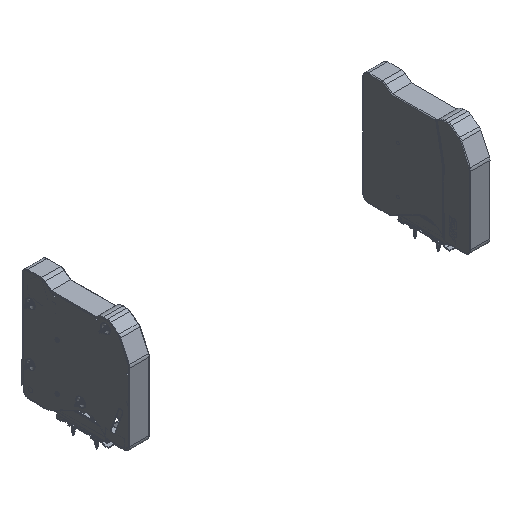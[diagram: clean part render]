
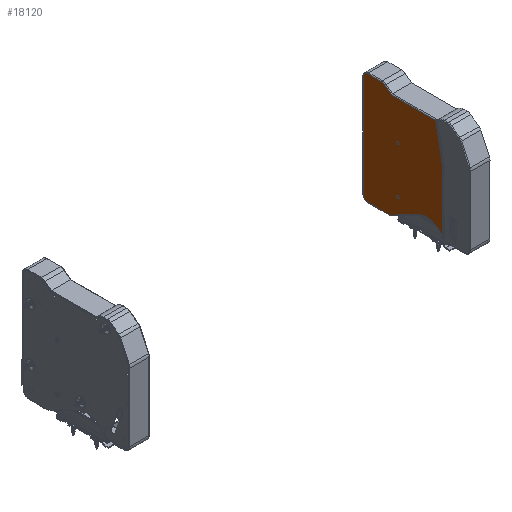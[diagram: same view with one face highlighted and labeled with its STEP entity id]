
A CAD part, isometric view. The second image highlights one B-rep face of the part: STEP entity #18120.
In plain terms, the highlighted planar face has unit normal (-1, 0, 0).
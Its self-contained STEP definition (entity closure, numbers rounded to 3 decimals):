
#1267=PLANE('',#19950);
#2826=LINE('',#34453,#4457);
#2828=LINE('',#34484,#4459);
#2830=LINE('',#34496,#4461);
#2832=LINE('',#34508,#4463);
#2834=LINE('',#34520,#4465);
#2835=LINE('',#34528,#4466);
#2857=LINE('',#34580,#4488);
#2871=LINE('',#34665,#4502);
#4457=VECTOR('',#24947,10.);
#4459=VECTOR('',#24971,10.);
#4461=VECTOR('',#24985,10.);
#4463=VECTOR('',#24999,10.);
#4465=VECTOR('',#25013,10.);
#4466=VECTOR('',#25024,10.);
#4488=VECTOR('',#25082,10.);
#4502=VECTOR('',#25162,10.);
#5789=FACE_OUTER_BOUND('',#7019,.T.);
#7019=EDGE_LOOP('',(#16878,#16879,#16880,#16881,#16882,#16883,#16884,#16885,
#16886,#16887,#16888,#16889,#16890,#16891));
#7714=CIRCLE('',#19865,30.413);
#7719=CIRCLE('',#19871,19.705);
#7723=CIRCLE('',#19877,11.);
#7727=CIRCLE('',#19883,7.);
#7731=CIRCLE('',#19889,7.);
#7735=CIRCLE('',#19895,7.);
#9387=VERTEX_POINT('',#34450);
#9388=VERTEX_POINT('',#34452);
#9389=VERTEX_POINT('',#34456);
#9391=VERTEX_POINT('',#34468);
#9394=VERTEX_POINT('',#34475);
#9396=VERTEX_POINT('',#34481);
#9398=VERTEX_POINT('',#34487);
#9400=VERTEX_POINT('',#34493);
#9402=VERTEX_POINT('',#34499);
#9404=VERTEX_POINT('',#34505);
#9406=VERTEX_POINT('',#34511);
#9408=VERTEX_POINT('',#34517);
#9410=VERTEX_POINT('',#34523);
#9422=VERTEX_POINT('',#34578);
#11844=EDGE_CURVE('',#9388,#9387,#2826,.T.);
#11847=EDGE_CURVE('',#9391,#9389,#7714,.T.);
#11852=EDGE_CURVE('',#9394,#9391,#7719,.T.);
#11855=EDGE_CURVE('',#9396,#9394,#2828,.T.);
#11858=EDGE_CURVE('',#9398,#9396,#7723,.T.);
#11861=EDGE_CURVE('',#9400,#9398,#2830,.T.);
#11864=EDGE_CURVE('',#9402,#9400,#7727,.T.);
#11867=EDGE_CURVE('',#9404,#9402,#2832,.T.);
#11870=EDGE_CURVE('',#9406,#9404,#7731,.T.);
#11873=EDGE_CURVE('',#9408,#9406,#2834,.T.);
#11876=EDGE_CURVE('',#9410,#9408,#7735,.T.);
#11877=EDGE_CURVE('',#9387,#9410,#2835,.T.);
#11904=EDGE_CURVE('',#9422,#9389,#2857,.T.);
#11939=EDGE_CURVE('',#9388,#9422,#2871,.T.);
#16878=ORIENTED_EDGE('',*,*,#11844,.T.);
#16879=ORIENTED_EDGE('',*,*,#11877,.T.);
#16880=ORIENTED_EDGE('',*,*,#11876,.T.);
#16881=ORIENTED_EDGE('',*,*,#11873,.T.);
#16882=ORIENTED_EDGE('',*,*,#11870,.T.);
#16883=ORIENTED_EDGE('',*,*,#11867,.T.);
#16884=ORIENTED_EDGE('',*,*,#11864,.T.);
#16885=ORIENTED_EDGE('',*,*,#11861,.T.);
#16886=ORIENTED_EDGE('',*,*,#11858,.T.);
#16887=ORIENTED_EDGE('',*,*,#11855,.T.);
#16888=ORIENTED_EDGE('',*,*,#11852,.T.);
#16889=ORIENTED_EDGE('',*,*,#11847,.T.);
#16890=ORIENTED_EDGE('',*,*,#11904,.F.);
#16891=ORIENTED_EDGE('',*,*,#11939,.F.);
#18120=ADVANCED_FACE('',(#5789),#1267,.F.);
#19865=AXIS2_PLACEMENT_3D('',#34469,#24952,#24953);
#19871=AXIS2_PLACEMENT_3D('',#34478,#24964,#24965);
#19877=AXIS2_PLACEMENT_3D('',#34490,#24978,#24979);
#19883=AXIS2_PLACEMENT_3D('',#34502,#24992,#24993);
#19889=AXIS2_PLACEMENT_3D('',#34514,#25006,#25007);
#19895=AXIS2_PLACEMENT_3D('',#34526,#25020,#25021);
#19950=AXIS2_PLACEMENT_3D('',#34668,#25167,#25168);
#24947=DIRECTION('',(0.,1.,0.));
#24952=DIRECTION('center_axis',(1.,0.,0.));
#24953=DIRECTION('ref_axis',(0.,-0.465,0.885));
#24964=DIRECTION('center_axis',(1.,0.,0.));
#24965=DIRECTION('ref_axis',(0.,0.208,0.978));
#24971=DIRECTION('',(0.,-0.888,0.461));
#24978=DIRECTION('center_axis',(-1.,0.,0.));
#24979=DIRECTION('ref_axis',(0.,-0.237,-0.971));
#24985=DIRECTION('',(0.,-1.,0.));
#24992=DIRECTION('center_axis',(-1.,0.,0.));
#24993=DIRECTION('ref_axis',(0.,0.707,-0.707));
#24999=DIRECTION('',(0.,0.,-1.));
#25006=DIRECTION('center_axis',(-1.,0.,0.));
#25007=DIRECTION('ref_axis',(0.,0.707,0.707));
#25013=DIRECTION('',(0.,1.,0.));
#25020=DIRECTION('center_axis',(-1.,0.,0.));
#25021=DIRECTION('ref_axis',(0.,-0.332,0.943));
#25024=DIRECTION('',(0.,0.78,0.626));
#25082=DIRECTION('',(0.,0.,-1.));
#25162=DIRECTION('',(0.,-0.183,-0.983));
#25167=DIRECTION('center_axis',(1.,0.,0.));
#25168=DIRECTION('ref_axis',(0.,0.,-1.));
#34450=CARTESIAN_POINT('',(-14.5,-85.166,-100.886));
#34452=CARTESIAN_POINT('',(-14.5,-145.76,-100.886));
#34453=CARTESIAN_POINT('',(-14.5,-131.294,-100.886));
#34456=CARTESIAN_POINT('',(-14.5,-154.571,-232.056));
#34468=CARTESIAN_POINT('',(-14.5,-133.179,-221.385));
#34469=CARTESIAN_POINT('Origin',(-14.5,-131.391,-251.745));
#34475=CARTESIAN_POINT('',(-14.5,-122.942,-223.566));
#34478=CARTESIAN_POINT('Origin',(-14.5,-132.021,-241.056));
#34481=CARTESIAN_POINT('',(-14.5,-85.538,-242.981));
#34484=CARTESIAN_POINT('',(-14.5,-112.323,-229.078));
#34487=CARTESIAN_POINT('',(-14.5,-80.471,-244.218));
#34490=CARTESIAN_POINT('Origin',(-14.5,-80.471,-233.218));
#34493=CARTESIAN_POINT('',(-14.5,-53.301,-244.218));
#34496=CARTESIAN_POINT('',(-14.5,-84.214,-244.218));
#34499=CARTESIAN_POINT('',(-14.5,-46.301,-237.218));
#34502=CARTESIAN_POINT('Origin',(-14.5,-53.301,-237.218));
#34505=CARTESIAN_POINT('',(-14.5,-46.301,-99.218));
#34508=CARTESIAN_POINT('',(-14.5,-46.301,-134.098));
#34511=CARTESIAN_POINT('',(-14.5,-53.301,-92.218));
#34514=CARTESIAN_POINT('Origin',(-14.5,-53.301,-99.218));
#34517=CARTESIAN_POINT('',(-14.5,-71.904,-92.218));
#34520=CARTESIAN_POINT('',(-14.5,-93.516,-92.218));
#34523=CARTESIAN_POINT('',(-14.5,-76.285,-93.758));
#34526=CARTESIAN_POINT('Origin',(-14.5,-71.904,-99.218));
#34528=CARTESIAN_POINT('',(-14.5,-110.761,-121.425));
#34578=CARTESIAN_POINT('',(-14.5,-154.571,-148.169));
#34580=CARTESIAN_POINT('',(-14.5,-154.571,-201.942));
#34665=CARTESIAN_POINT('',(-14.5,-151.411,-131.214));
#34668=CARTESIAN_POINT('Origin',(-14.5,-115.128,-168.978));
